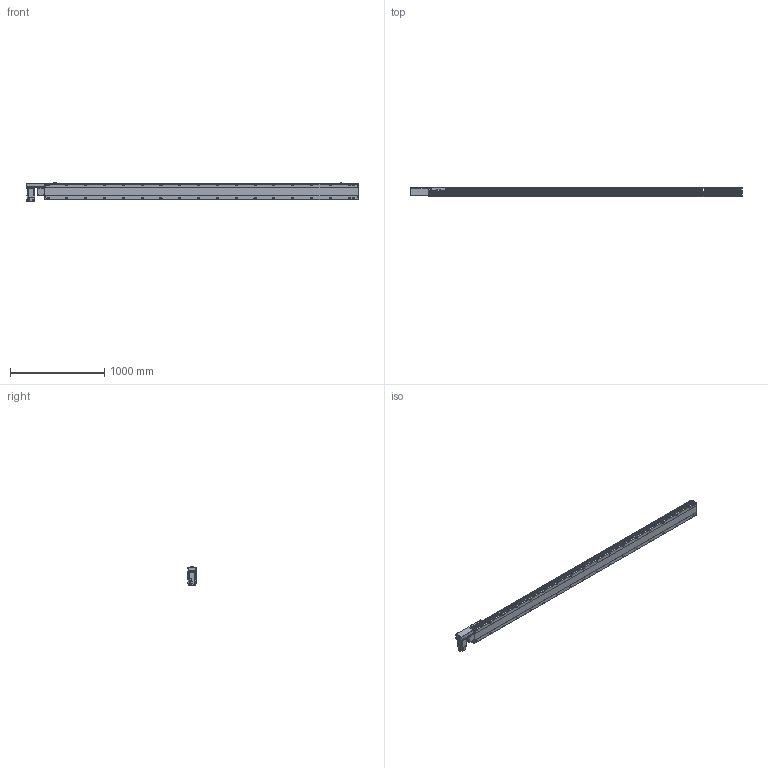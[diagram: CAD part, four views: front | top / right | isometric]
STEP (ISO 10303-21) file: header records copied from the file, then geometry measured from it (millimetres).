
FILE_DESCRIPTION( ( 'STEP AP214' ), '1' );
FILE_NAME( 'x:/temp/worker_4/temp/exporttempdir_2248_302_BZJOl/format_0/PBS170-P40-S3050-R-T75-C1-N(0).stp', '2022-06-07T07:33:29', ( 'License CC BY-ND 4.0' ), ( 'CADENAS' ), ' ', 'PARTsolutions', ' ' );
FILE_SCHEMA( ( 'AUTOMOTIVE_DESIGN { 1 0 10303 214 1 1 1 1 }' ) );
Length unit declared in the file: millimetre
Products named in the file (7): PBS170-P40-S3050-R-T75-C1-N(0); _PBS170-S3050()_body; _PBS170T-R_motors; _T75-p1; _PBS170_sliser; _PBS170_plant; _PBS170_sensor
Assembly tree (8 placements, depth 2):
  PBS170-P40-S3050-R-T75-C1-N(0)
    _PBS170-S3050()_body
    _PBS170T-R_motors
    _T75-p1
    _PBS170_sliser
    _PBS170_plant
    _PBS170_sensor  x3
Bounding box: 3528 x 97 x 205.3 mm (x, y, z)
Volume: 25594546.9 mm3; surface area: 3203559.3 mm2
Topology: 8 solids, 8 shells, 1242 faces, 3275 edges, 2134 vertices
Faces by surface type: plane 747, cylinder 419, cone 66, sphere 8, torus 2
Full cylindrical faces by diameter (mm): 3.242 x4, 4 x2, 4.4 x4, 4.5 x6, 4.917 x4, 6 x9, 6.647 x44, 7 x2, 7.5 x4, 8 x8, 8.5 x36, 10 x4, 10.5 x36, 11 x2, 30 x2, 40 x1, 70 x1
Entity records: 46160 total; most frequent: CARTESIAN_POINT 7901, DIRECTION 6000, ORIENTED_EDGE 5628, EDGE_CURVE 2814, AXIS2_PLACEMENT_3D 2137, VERTEX_POINT 1970, LINE 1726, VECTOR 1726
